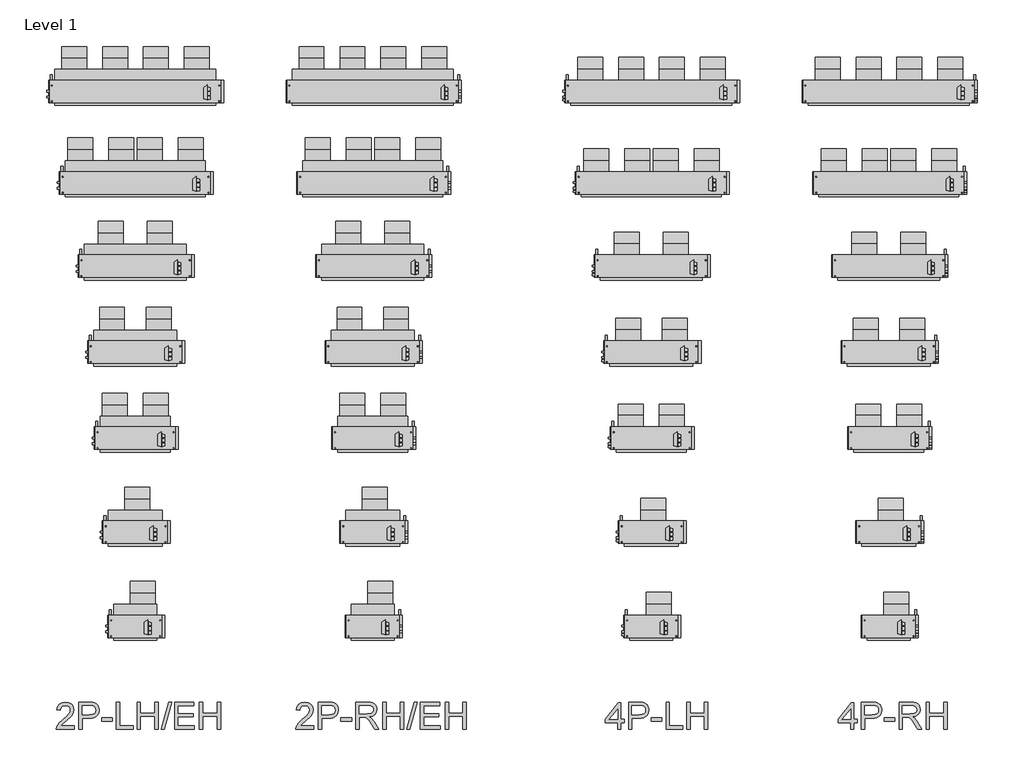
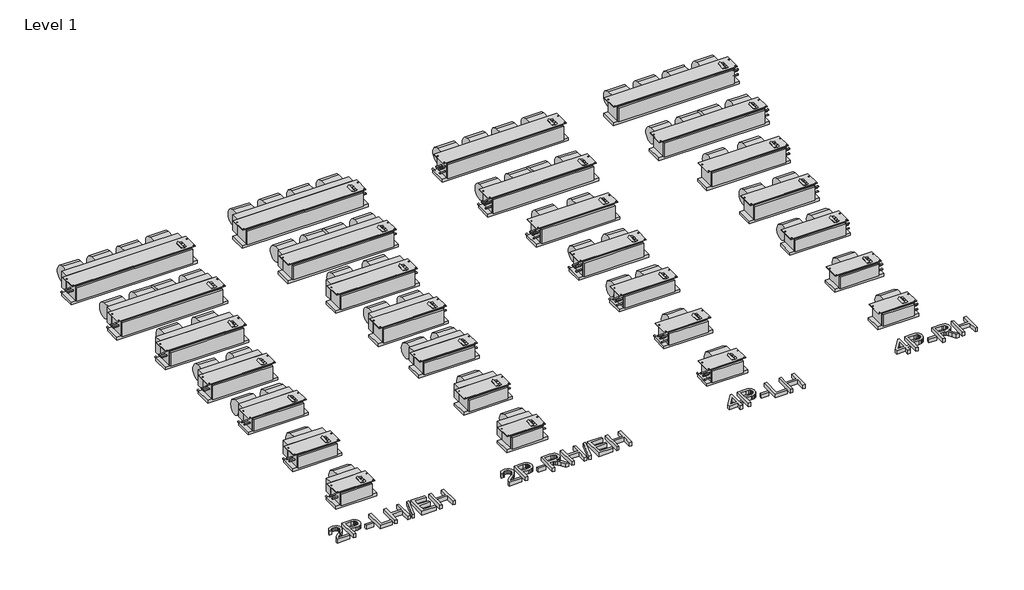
# One storey: 32 proxies.
"""IFC4 building model written with IfcOpenShell, lengths in millimetres."""

from ifc_helpers import new_model, si_unit, origin, origin_with_axes, place, context, project, spatial, polyline, outline, extrude, transform, mapped, element, save
from components import mechanical_equipment_23417bb2, mechanical_equipment_e5b27044, mechanical_equipment_69a07cf0, mechanical_equipment_f03ada10, mechanical_equipment_84a4468c, mechanical_equipment_52533416, mechanical_equipment_a1f2efd8, mechanical_equipment_bdde37b6, mechanical_equipment_29567586, mechanical_equipment_e6d8fa8a, mechanical_equipment_28c986cc, mechanical_equipment_38e29a78, mechanical_equipment_4577cfd4, mechanical_equipment_2d8c5a3b, mechanical_equipment_0b183461, mechanical_equipment_d764b94b, mechanical_equipment_ea1d5f5e, mechanical_equipment_06ff4b7f, mechanical_equipment_02c48ade, mechanical_equipment_e52bd92c, mechanical_equipment_d1901efa, mechanical_equipment_30e3efb8, mechanical_equipment_e5550dfa, mechanical_equipment_a1381dee, mechanical_equipment_a667337c, mechanical_equipment_61bc071b, mechanical_equipment_dacc72c7, mechanical_equipment_d07abc6c

model = new_model("IFC4")

# Units and contexts
model_context = context("Model", 3, world=origin())
ifc_project = project(units=[si_unit("LENGTHUNIT", "METRE", prefix="MILLI")], contexts=[model_context])

# Site, building, storey
site = spatial("IfcSite", under=ifc_project)
building = spatial("IfcBuilding", under=site)
storey = spatial("IfcBuildingStorey", under=building, Name="Level 1", Elevation=0.0)

# Proxies
placement = place(None, origin())
mechanical_equipment_shape = mechanical_equipment_23417bb2(model_context)
element("IfcBuildingElementProxy", 1, Name="Concealed_Horizontal_Fan_Coil_Unit_-_CHY_-_IEC_-_2-Pipe_Cool-EHeat_LH_2022 : Size 02 - 277v/60Hz/1Ph - 4 Row 2.0kW", ObjectType="Concealed_Horizontal_Fan_Coil_Unit_-_CHY_-_IEC_-_2-Pipe_Cool-EHeat_LH_2022 : Size 02 - 277v/60Hz/1Ph - 4 Row 2.0kW", at=placement, inside=storey, context=model_context, shape_type="MappedRepresentation", body=[
    mapped(mechanical_equipment_shape, transform((-13802.5071987, -1053.2557336, 0.0), x_axis=(1.0, 0.0, 0.0), y_axis=(0.0, 1.0, 0.0), z_axis=(0.0, 0.0, 1.0))),
])
mechanical_equipment_2_shape = mechanical_equipment_e5b27044(model_context)
element("IfcBuildingElementProxy", 2, Name="Concealed_Horizontal_Fan_Coil_Unit_-_CHY_-_IEC_-_2-Pipe_Cool-EHeat_LH_2022 : Size 03 - 277v/60Hz/1Ph - 4 Row 3.0kW", ObjectType="Concealed_Horizontal_Fan_Coil_Unit_-_CHY_-_IEC_-_2-Pipe_Cool-EHeat_LH_2022 : Size 03 - 277v/60Hz/1Ph - 4 Row 3.0kW", at=placement, inside=storey, context=model_context, shape_type="MappedRepresentation", body=[
    mapped(mechanical_equipment_2_shape, transform((-13802.5071987, -164.2557336, 0.0), x_axis=(1.0, 0.0, 0.0), y_axis=(0.0, 1.0, 0.0), z_axis=(0.0, 0.0, 1.0))),
])
mechanical_equipment_3_shape = mechanical_equipment_69a07cf0(model_context)
element("IfcBuildingElementProxy", 3, Name="Concealed_Horizontal_Fan_Coil_Unit_-_CHY_-_IEC_-_2-Pipe_Cool-EHeat_LH_2022 : Size 04 - 277v/60Hz/1Ph - 4 Row 3.0kW", ObjectType="Concealed_Horizontal_Fan_Coil_Unit_-_CHY_-_IEC_-_2-Pipe_Cool-EHeat_LH_2022 : Size 04 - 277v/60Hz/1Ph - 4 Row 3.0kW", at=placement, inside=storey, context=model_context, shape_type="MappedRepresentation", body=[
    mapped(mechanical_equipment_3_shape, transform((-13802.5071987, 724.7442664, 0.0), x_axis=(1.0, 0.0, 0.0), y_axis=(0.0, 1.0, 0.0), z_axis=(0.0, 0.0, 1.0))),
])
mechanical_equipment_4_shape = mechanical_equipment_f03ada10(model_context)
element("IfcBuildingElementProxy", 4, Name="Concealed_Horizontal_Fan_Coil_Unit_-_CHY_-_IEC_-_2-Pipe_Cool-EHeat_LH_2022 : Size 06 - 277v/60Hz/1Ph - 4 Row 6.0kW", ObjectType="Concealed_Horizontal_Fan_Coil_Unit_-_CHY_-_IEC_-_2-Pipe_Cool-EHeat_LH_2022 : Size 06 - 277v/60Hz/1Ph - 4 Row 6.0kW", at=placement, inside=storey, context=model_context, shape_type="MappedRepresentation", body=[
    mapped(mechanical_equipment_4_shape, transform((-13802.5071987, 1537.5442664, 0.0), x_axis=(1.0, 0.0, 0.0), y_axis=(0.0, 1.0, 0.0), z_axis=(0.0, 0.0, 1.0))),
])
mechanical_equipment_5_shape = mechanical_equipment_84a4468c(model_context)
element("IfcBuildingElementProxy", 5, Name="Concealed_Horizontal_Fan_Coil_Unit_-_CHY_-_IEC_-_2-Pipe_Cool-EHeat_LH_2022 : Size 08 - 277v/60Hz/1Ph - 4 Row 6.0kW", ObjectType="Concealed_Horizontal_Fan_Coil_Unit_-_CHY_-_IEC_-_2-Pipe_Cool-EHeat_LH_2022 : Size 08 - 277v/60Hz/1Ph - 4 Row 6.0kW", at=placement, inside=storey, context=model_context, shape_type="MappedRepresentation", body=[
    mapped(mechanical_equipment_5_shape, transform((-13802.5071987, 2350.3442664, 0.0), x_axis=(1.0, 0.0, 0.0), y_axis=(0.0, 1.0, 0.0), z_axis=(0.0, 0.0, 1.0))),
])
mechanical_equipment_6_shape = mechanical_equipment_52533416(model_context)
element("IfcBuildingElementProxy", 6, Name="Concealed_Horizontal_Fan_Coil_Unit_-_CHY_-_IEC_-_2-Pipe_Cool-EHeat_LH_2022 : Size 10 - 277v/60Hz/1Ph - 4 Row 8.0kW", ObjectType="Concealed_Horizontal_Fan_Coil_Unit_-_CHY_-_IEC_-_2-Pipe_Cool-EHeat_LH_2022 : Size 10 - 277v/60Hz/1Ph - 4 Row 8.0kW", at=placement, inside=storey, context=model_context, shape_type="MappedRepresentation", body=[
    mapped(mechanical_equipment_6_shape, transform((-13802.5071987, 3137.7442664, 0.0), x_axis=(1.0, 0.0, 0.0), y_axis=(0.0, 1.0, 0.0), z_axis=(0.0, 0.0, 1.0))),
])
mechanical_equipment_7_shape = mechanical_equipment_a1f2efd8(model_context)
element("IfcBuildingElementProxy", 7, Name="Concealed_Horizontal_Fan_Coil_Unit_-_CHY_-_IEC_-_2-Pipe_Cool-EHeat_LH_2022 : Size 12 - 277v/60Hz/1Ph - 4 Row 10.0kW", ObjectType="Concealed_Horizontal_Fan_Coil_Unit_-_CHY_-_IEC_-_2-Pipe_Cool-EHeat_LH_2022 : Size 12 - 277v/60Hz/1Ph - 4 Row 10.0kW", at=placement, inside=storey, context=model_context, shape_type="MappedRepresentation", body=[
    mapped(mechanical_equipment_7_shape, transform((-13802.5071987, 4001.3442664, 0.0), x_axis=(1.0, 0.0, 0.0), y_axis=(0.0, 1.0, 0.0), z_axis=(0.0, 0.0, 1.0))),
])
mechanical_equipment_8_shape = mechanical_equipment_bdde37b6(model_context)
element("IfcBuildingElementProxy", 8, Name="Concealed_Horizontal_Fan_Coil_Unit_-_CHY_-_IEC_-_4-Pipe_LH_2022 : Size 02 - 277v/60Hz/1Ph - 4/1 Coil", ObjectType="Concealed_Horizontal_Fan_Coil_Unit_-_CHY_-_IEC_-_4-Pipe_LH_2022 : Size 02 - 277v/60Hz/1Ph - 4/1 Coil", at=placement, inside=storey, context=model_context, shape_type="MappedRepresentation", body=[
    mapped(mechanical_equipment_8_shape, transform((-8925.7071987, -1053.2557336, 0.0), x_axis=(1.0, 0.0, 0.0), y_axis=(0.0, 1.0, 0.0), z_axis=(0.0, 0.0, 1.0))),
])
mechanical_equipment_9_shape = mechanical_equipment_29567586(model_context)
element("IfcBuildingElementProxy", 9, Name="Concealed_Horizontal_Fan_Coil_Unit_-_CHY_-_IEC_-_4-Pipe_LH_2022 : Size 03 - 277v/60Hz/1Ph - 4/1 Coil", ObjectType="Concealed_Horizontal_Fan_Coil_Unit_-_CHY_-_IEC_-_4-Pipe_LH_2022 : Size 03 - 277v/60Hz/1Ph - 4/1 Coil", at=placement, inside=storey, context=model_context, shape_type="MappedRepresentation", body=[
    mapped(mechanical_equipment_9_shape, transform((-8925.7071987, -164.2557336, 0.0), x_axis=(1.0, 0.0, 0.0), y_axis=(0.0, 1.0, 0.0), z_axis=(0.0, 0.0, 1.0))),
])
mechanical_equipment_10_shape = mechanical_equipment_e6d8fa8a(model_context)
element("IfcBuildingElementProxy", 10, Name="Concealed_Horizontal_Fan_Coil_Unit_-_CHY_-_IEC_-_4-Pipe_LH_2022 : Size 04 - 277v/60Hz/1Ph - 4/1 Coil", ObjectType="Concealed_Horizontal_Fan_Coil_Unit_-_CHY_-_IEC_-_4-Pipe_LH_2022 : Size 04 - 277v/60Hz/1Ph - 4/1 Coil", at=placement, inside=storey, context=model_context, shape_type="MappedRepresentation", body=[
    mapped(mechanical_equipment_10_shape, transform((-8925.7071987, 724.7442664, 0.0), x_axis=(1.0, 0.0, 0.0), y_axis=(0.0, 1.0, 0.0), z_axis=(0.0, 0.0, 1.0))),
])
mechanical_equipment_11_shape = mechanical_equipment_28c986cc(model_context)
element("IfcBuildingElementProxy", 11, Name="Concealed_Horizontal_Fan_Coil_Unit_-_CHY_-_IEC_-_4-Pipe_LH_2022 : Size 06 - 277v/60Hz/1Ph - 4/1 Coil", ObjectType="Concealed_Horizontal_Fan_Coil_Unit_-_CHY_-_IEC_-_4-Pipe_LH_2022 : Size 06 - 277v/60Hz/1Ph - 4/1 Coil", at=placement, inside=storey, context=model_context, shape_type="MappedRepresentation", body=[
    mapped(mechanical_equipment_11_shape, transform((-8925.7071987, 1537.5442664, 0.0), x_axis=(1.0, 0.0, 0.0), y_axis=(0.0, 1.0, 0.0), z_axis=(0.0, 0.0, 1.0))),
])
mechanical_equipment_12_shape = mechanical_equipment_38e29a78(model_context)
element("IfcBuildingElementProxy", 12, Name="Concealed_Horizontal_Fan_Coil_Unit_-_CHY_-_IEC_-_4-Pipe_LH_2022 : Size 08 - 277v/60Hz/1Ph - 4/1 Coil", ObjectType="Concealed_Horizontal_Fan_Coil_Unit_-_CHY_-_IEC_-_4-Pipe_LH_2022 : Size 08 - 277v/60Hz/1Ph - 4/1 Coil", at=placement, inside=storey, context=model_context, shape_type="MappedRepresentation", body=[
    mapped(mechanical_equipment_12_shape, transform((-8925.7071987, 2350.3442664, 0.0), x_axis=(1.0, 0.0, 0.0), y_axis=(0.0, 1.0, 0.0), z_axis=(0.0, 0.0, 1.0))),
])
mechanical_equipment_13_shape = mechanical_equipment_4577cfd4(model_context)
element("IfcBuildingElementProxy", 13, Name="Concealed_Horizontal_Fan_Coil_Unit_-_CHY_-_IEC_-_4-Pipe_LH_2022 : Size 10 - 277v/60Hz/1Ph - 4/1 Coil", ObjectType="Concealed_Horizontal_Fan_Coil_Unit_-_CHY_-_IEC_-_4-Pipe_LH_2022 : Size 10 - 277v/60Hz/1Ph - 4/1 Coil", at=placement, inside=storey, context=model_context, shape_type="MappedRepresentation", body=[
    mapped(mechanical_equipment_13_shape, transform((-8925.7071987, 3137.7442664, 0.0), x_axis=(1.0, 0.0, 0.0), y_axis=(0.0, 1.0, 0.0), z_axis=(0.0, 0.0, 1.0))),
])
mechanical_equipment_14_shape = mechanical_equipment_2d8c5a3b(model_context)
element("IfcBuildingElementProxy", 14, Name="Concealed_Horizontal_Fan_Coil_Unit_-_CHY_-_IEC_-_4-Pipe_LH_2022 : Size 12 - 277v/60Hz/1Ph - 4/1 Coil", ObjectType="Concealed_Horizontal_Fan_Coil_Unit_-_CHY_-_IEC_-_4-Pipe_LH_2022 : Size 12 - 277v/60Hz/1Ph - 4/1 Coil", at=placement, inside=storey, context=model_context, shape_type="MappedRepresentation", body=[
    mapped(mechanical_equipment_14_shape, transform((-8925.7071987, 4001.3442664, 0.0), x_axis=(1.0, 0.0, 0.0), y_axis=(0.0, 1.0, 0.0), z_axis=(0.0, 0.0, 1.0))),
])
mechanical_equipment_15_shape = mechanical_equipment_0b183461(model_context)
element("IfcBuildingElementProxy", 15, Name="Concealed_Horizontal_Fan_Coil_Unit_-_CHY_-_IEC_-_2-Pipe_Cool-EHeat_RH_2022 : Size 02 - 277v/60Hz/1Ph - 4 Row 2.0kW", ObjectType="Concealed_Horizontal_Fan_Coil_Unit_-_CHY_-_IEC_-_2-Pipe_Cool-EHeat_RH_2022 : Size 02 - 277v/60Hz/1Ph - 4 Row 2.0kW", at=placement, inside=storey, context=model_context, shape_type="MappedRepresentation", body=[
    mapped(mechanical_equipment_15_shape, transform((-11558.3213845, -1053.2557336, 0.0), x_axis=(1.0, 0.0, 0.0), y_axis=(0.0, 1.0, 0.0), z_axis=(0.0, 0.0, 1.0))),
])
mechanical_equipment_16_shape = mechanical_equipment_d764b94b(model_context)
element("IfcBuildingElementProxy", 16, Name="Concealed_Horizontal_Fan_Coil_Unit_-_CHY_-_IEC_-_2-Pipe_Cool-EHeat_RH_2022 : Size 03 - 277v/60Hz/1Ph - 4 Row 3.0kW", ObjectType="Concealed_Horizontal_Fan_Coil_Unit_-_CHY_-_IEC_-_2-Pipe_Cool-EHeat_RH_2022 : Size 03 - 277v/60Hz/1Ph - 4 Row 3.0kW", at=placement, inside=storey, context=model_context, shape_type="MappedRepresentation", body=[
    mapped(mechanical_equipment_16_shape, transform((-11558.3213845, -164.2557336, 0.0), x_axis=(1.0, 0.0, 0.0), y_axis=(0.0, 1.0, 0.0), z_axis=(0.0, 0.0, 1.0))),
])
mechanical_equipment_17_shape = mechanical_equipment_ea1d5f5e(model_context)
element("IfcBuildingElementProxy", 17, Name="Concealed_Horizontal_Fan_Coil_Unit_-_CHY_-_IEC_-_2-Pipe_Cool-EHeat_RH_2022 : Size 04 - 277v/60Hz/1Ph - 4 Row 3.0kW", ObjectType="Concealed_Horizontal_Fan_Coil_Unit_-_CHY_-_IEC_-_2-Pipe_Cool-EHeat_RH_2022 : Size 04 - 277v/60Hz/1Ph - 4 Row 3.0kW", at=placement, inside=storey, context=model_context, shape_type="MappedRepresentation", body=[
    mapped(mechanical_equipment_17_shape, transform((-11558.3213845, 724.7442664, 0.0), x_axis=(1.0, 0.0, 0.0), y_axis=(0.0, 1.0, 0.0), z_axis=(0.0, 0.0, 1.0))),
])
mechanical_equipment_18_shape = mechanical_equipment_06ff4b7f(model_context)
element("IfcBuildingElementProxy", 18, Name="Concealed_Horizontal_Fan_Coil_Unit_-_CHY_-_IEC_-_2-Pipe_Cool-EHeat_RH_2022 : Size 06 - 277v/60Hz/1Ph - 4 Row 6.0kW", ObjectType="Concealed_Horizontal_Fan_Coil_Unit_-_CHY_-_IEC_-_2-Pipe_Cool-EHeat_RH_2022 : Size 06 - 277v/60Hz/1Ph - 4 Row 6.0kW", at=placement, inside=storey, context=model_context, shape_type="MappedRepresentation", body=[
    mapped(mechanical_equipment_18_shape, transform((-11558.3213845, 1537.5442664, 0.0), x_axis=(1.0, 0.0, 0.0), y_axis=(0.0, 1.0, 0.0), z_axis=(0.0, 0.0, 1.0))),
])
mechanical_equipment_19_shape = mechanical_equipment_02c48ade(model_context)
element("IfcBuildingElementProxy", 19, Name="Concealed_Horizontal_Fan_Coil_Unit_-_CHY_-_IEC_-_2-Pipe_Cool-EHeat_RH_2022 : Size 08 - 277v/60Hz/1Ph - 4 Row 6.0kW", ObjectType="Concealed_Horizontal_Fan_Coil_Unit_-_CHY_-_IEC_-_2-Pipe_Cool-EHeat_RH_2022 : Size 08 - 277v/60Hz/1Ph - 4 Row 6.0kW", at=placement, inside=storey, context=model_context, shape_type="MappedRepresentation", body=[
    mapped(mechanical_equipment_19_shape, transform((-11558.3213845, 2350.3442664, 0.0), x_axis=(1.0, 0.0, 0.0), y_axis=(0.0, 1.0, 0.0), z_axis=(0.0, 0.0, 1.0))),
])
mechanical_equipment_20_shape = mechanical_equipment_e52bd92c(model_context)
element("IfcBuildingElementProxy", 20, Name="Concealed_Horizontal_Fan_Coil_Unit_-_CHY_-_IEC_-_2-Pipe_Cool-EHeat_RH_2022 : Size 10 - 277v/60Hz/1Ph - 4 Row 8.0kW", ObjectType="Concealed_Horizontal_Fan_Coil_Unit_-_CHY_-_IEC_-_2-Pipe_Cool-EHeat_RH_2022 : Size 10 - 277v/60Hz/1Ph - 4 Row 8.0kW", at=placement, inside=storey, context=model_context, shape_type="MappedRepresentation", body=[
    mapped(mechanical_equipment_20_shape, transform((-11558.3213845, 3137.7442664, 0.0), x_axis=(1.0, 0.0, 0.0), y_axis=(0.0, 1.0, 0.0), z_axis=(0.0, 0.0, 1.0))),
])
mechanical_equipment_21_shape = mechanical_equipment_d1901efa(model_context)
element("IfcBuildingElementProxy", 21, Name="Concealed_Horizontal_Fan_Coil_Unit_-_CHY_-_IEC_-_2-Pipe_Cool-EHeat_RH_2022 : Size 12 - 277v/60Hz/1Ph - 4 Row 10.0kW", ObjectType="Concealed_Horizontal_Fan_Coil_Unit_-_CHY_-_IEC_-_2-Pipe_Cool-EHeat_RH_2022 : Size 12 - 277v/60Hz/1Ph - 4 Row 10.0kW", at=placement, inside=storey, context=model_context, shape_type="MappedRepresentation", body=[
    mapped(mechanical_equipment_21_shape, transform((-11558.3213845, 4001.3442664, 0.0), x_axis=(1.0, 0.0, 0.0), y_axis=(0.0, 1.0, 0.0), z_axis=(0.0, 0.0, 1.0))),
])
mechanical_equipment_22_shape = mechanical_equipment_30e3efb8(model_context)
element("IfcBuildingElementProxy", 22, Name="Concealed_Horizontal_Fan_Coil_Unit_-_CHY_-_IEC_-_4-Pipe_RH_2022 : Size 02 - 277v/60Hz/1Ph - 4/1 Coil", ObjectType="Concealed_Horizontal_Fan_Coil_Unit_-_CHY_-_IEC_-_4-Pipe_RH_2022 : Size 02 - 277v/60Hz/1Ph - 4/1 Coil", at=placement, inside=storey, context=model_context, shape_type="MappedRepresentation", body=[
    mapped(mechanical_equipment_22_shape, transform((-6681.5213845, -1053.2557336, 0.0), x_axis=(1.0, 0.0, 0.0), y_axis=(0.0, 1.0, 0.0), z_axis=(0.0, 0.0, 1.0))),
])
mechanical_equipment_23_shape = mechanical_equipment_e5550dfa(model_context)
element("IfcBuildingElementProxy", 23, Name="Concealed_Horizontal_Fan_Coil_Unit_-_CHY_-_IEC_-_4-Pipe_RH_2022 : Size 03 - 277v/60Hz/1Ph - 4/1 Coil", ObjectType="Concealed_Horizontal_Fan_Coil_Unit_-_CHY_-_IEC_-_4-Pipe_RH_2022 : Size 03 - 277v/60Hz/1Ph - 4/1 Coil", at=placement, inside=storey, context=model_context, shape_type="MappedRepresentation", body=[
    mapped(mechanical_equipment_23_shape, transform((-6681.5213845, -164.2557336, 0.0), x_axis=(1.0, 0.0, 0.0), y_axis=(0.0, 1.0, 0.0), z_axis=(0.0, 0.0, 1.0))),
])
mechanical_equipment_24_shape = mechanical_equipment_a1381dee(model_context)
element("IfcBuildingElementProxy", 24, Name="Concealed_Horizontal_Fan_Coil_Unit_-_CHY_-_IEC_-_4-Pipe_RH_2022 : Size 04 - 277v/60Hz/1Ph - 4/1 Coil", ObjectType="Concealed_Horizontal_Fan_Coil_Unit_-_CHY_-_IEC_-_4-Pipe_RH_2022 : Size 04 - 277v/60Hz/1Ph - 4/1 Coil", at=placement, inside=storey, context=model_context, shape_type="MappedRepresentation", body=[
    mapped(mechanical_equipment_24_shape, transform((-6681.5213845, 724.7442664, 0.0), x_axis=(1.0, 0.0, 0.0), y_axis=(0.0, 1.0, 0.0), z_axis=(0.0, 0.0, 1.0))),
])
mechanical_equipment_25_shape = mechanical_equipment_a667337c(model_context)
element("IfcBuildingElementProxy", 25, Name="Concealed_Horizontal_Fan_Coil_Unit_-_CHY_-_IEC_-_4-Pipe_RH_2022 : Size 06 - 277v/60Hz/1Ph - 4/1 Coil", ObjectType="Concealed_Horizontal_Fan_Coil_Unit_-_CHY_-_IEC_-_4-Pipe_RH_2022 : Size 06 - 277v/60Hz/1Ph - 4/1 Coil", at=placement, inside=storey, context=model_context, shape_type="MappedRepresentation", body=[
    mapped(mechanical_equipment_25_shape, transform((-6681.5213845, 1537.5442664, 0.0), x_axis=(1.0, 0.0, 0.0), y_axis=(0.0, 1.0, 0.0), z_axis=(0.0, 0.0, 1.0))),
])
mechanical_equipment_26_shape = mechanical_equipment_61bc071b(model_context)
element("IfcBuildingElementProxy", 26, Name="Concealed_Horizontal_Fan_Coil_Unit_-_CHY_-_IEC_-_4-Pipe_RH_2022 : Size 08 - 277v/60Hz/1Ph - 4/1 Coil", ObjectType="Concealed_Horizontal_Fan_Coil_Unit_-_CHY_-_IEC_-_4-Pipe_RH_2022 : Size 08 - 277v/60Hz/1Ph - 4/1 Coil", at=placement, inside=storey, context=model_context, shape_type="MappedRepresentation", body=[
    mapped(mechanical_equipment_26_shape, transform((-6681.5213845, 2350.3442664, 0.0), x_axis=(1.0, 0.0, 0.0), y_axis=(0.0, 1.0, 0.0), z_axis=(0.0, 0.0, 1.0))),
])
mechanical_equipment_27_shape = mechanical_equipment_dacc72c7(model_context)
element("IfcBuildingElementProxy", 27, Name="Concealed_Horizontal_Fan_Coil_Unit_-_CHY_-_IEC_-_4-Pipe_RH_2022 : Size 10 - 277v/60Hz/1Ph - 4/1 Coil", ObjectType="Concealed_Horizontal_Fan_Coil_Unit_-_CHY_-_IEC_-_4-Pipe_RH_2022 : Size 10 - 277v/60Hz/1Ph - 4/1 Coil", at=placement, inside=storey, context=model_context, shape_type="MappedRepresentation", body=[
    mapped(mechanical_equipment_27_shape, transform((-6681.5213845, 3137.7442664, 0.0), x_axis=(1.0, 0.0, 0.0), y_axis=(0.0, 1.0, 0.0), z_axis=(0.0, 0.0, 1.0))),
])
mechanical_equipment_28_shape = mechanical_equipment_d07abc6c(model_context)
element("IfcBuildingElementProxy", 28, Name="Concealed_Horizontal_Fan_Coil_Unit_-_CHY_-_IEC_-_4-Pipe_RH_2022 : Size 12 - 277v/60Hz/1Ph - 4/1 Coil", ObjectType="Concealed_Horizontal_Fan_Coil_Unit_-_CHY_-_IEC_-_4-Pipe_RH_2022 : Size 12 - 277v/60Hz/1Ph - 4/1 Coil", at=placement, inside=storey, context=model_context, shape_type="MappedRepresentation", body=[
    mapped(mechanical_equipment_28_shape, transform((-6681.5213845, 4001.3442664, 0.0), x_axis=(1.0, 0.0, 0.0), y_axis=(0.0, 1.0, 0.0), z_axis=(0.0, 0.0, 1.0))),
])
element("IfcBuildingElementProxy", 29, Name="24\" Arial", ObjectType="24\" Arial", at=placement, inside=storey, context=model_context, shape_type="SweptSolid", body=[
    extrude(outline(polyline([(-14227.1148112, -2231.8462306), (-14227.1148112, -2263.741109), (-14394.5629232, -2263.741109), (-14391.1367155, -2241.7510854), (-14383.2720116, -2224.5655393), (-14371.7630686, -2207.8939244), (-14331.8321758, -2170.9220291), (-14297.4143627, -2140.3509127), (-14276.7636747, -2117.7846632), (-14266.4383308, -2099.470026), (-14262.9965495, -2081.6537462), (-14266.2436599, -2065.6829465), (-14275.9849912, -2052.4063918), (-14290.959076, -2043.4593178), (-14309.9044469, -2040.4769597), (-14329.7998118, -2043.3892362), (-14345.2566804, -2052.1260657), (-14355.2316167, -2066.0022067), (-14358.6811849, -2084.3324176), (-14390.5760633, -2080.3455578), (-14382.8437356, -2049.4941153), (-14366.1253997, -2026.9590132), (-14341.2931811, -2013.1763142), (-14309.2192054, -2008.5820813), (-14276.9116246, -2013.6902454), (-14252.126127, -2029.0147378), (-14236.357785, -2051.9080343), (-14231.101671, -2079.722611), (-14236.7704873, -2109.9666803), (-14255.6146293, -2141.2386119), (-14301.3077804, -2184.9383331), (-14337.9993496, -2215.6184653), (-14352.3894217, -2231.8462306), (-14227.1148112, -2231.8462306)])), origin_with_axes(), (0.0, 0.0, 1.0), 50.8),
    extrude(outline(polyline([(-14183.2593533, -2263.741109), (-14183.2593533, -2008.5820813), (-14088.6960222, -2008.5820813), (-14050.5716753, -2011.011574), (-14033.5730132, -2015.5512991), (-14019.5800697, -2022.941006), (-14008.3125186, -2033.5155287), (-13999.490034, -2047.6097011), (-13993.7900703, -2064.234595), (-13991.8900824, -2082.4012824), (-13997.0216071, -2112.4740414), (-14012.416181, -2137.5320782), (-14024.7446884, -2147.3979989), (-14041.2041121, -2154.4450851), (-14061.794452, -2158.6733368), (-14086.5157082, -2160.082754), (-14151.3644748, -2160.082754), (-14151.3644748, -2263.741109), (-14183.2593533, -2263.741109)]), holes=[polyline([(-14151.3644748, -2128.1878755), (-14084.6468677, -2128.1878755), (-14056.3650809, -2125.2600254), (-14037.6766756, -2116.4764748), (-14027.2578896, -2102.3823025), (-14023.7849609, -2083.5225867), (-14025.8328987, -2069.1948093), (-14031.9767119, -2057.1096405), (-14041.4532908, -2048.0146166), (-14053.4995254, -2042.6572737), (-14085.3944039, -2040.4769597), (-14151.3644748, -2040.4769597), (-14151.3644748, -2128.1878755)])]), origin_with_axes(), (0.0, 0.0, 1.0), 50.8),
    extrude(outline(polyline([(-13967.9689236, -2187.9907727), (-13967.9689236, -2156.0958942), (-13868.2974284, -2156.0958942), (-13868.2974284, -2187.9907727), (-13967.9689236, -2187.9907727)])), origin_with_axes(), (0.0, 0.0, 1.0), 50.8),
    extrude(outline(polyline([(-13828.4288303, -2263.741109), (-13828.4288303, -2008.5820813), (-13796.5339518, -2008.5820813), (-13796.5339518, -2231.8462306), (-13668.9544379, -2231.8462306), (-13668.9544379, -2263.741109), (-13828.4288303, -2263.741109)])), origin_with_axes(), (0.0, 0.0, 1.0), 50.8),
    extrude(outline(polyline([(-13633.0726996, -2263.741109), (-13633.0726996, -2008.5820813), (-13601.1778212, -2008.5820813), (-13601.1778212, -2112.2404363), (-13465.6245876, -2112.2404363), (-13465.6245876, -2008.5820813), (-13433.7297092, -2008.5820813), (-13433.7297092, -2263.741109), (-13465.6245876, -2263.741109), (-13465.6245876, -2144.1353148), (-13601.1778212, -2144.1353148), (-13601.1778212, -2263.741109), (-13633.0726996, -2263.741109)])), origin_with_axes(), (0.0, 0.0, 1.0), 50.8),
    extrude(outline(polyline([(-13405.8216905, -2263.741109), (-13334.0582139, -2008.5820813), (-13305.2780697, -2008.5820813), (-13377.0415463, -2263.741109), (-13405.8216905, -2263.741109)])), origin_with_axes(), (0.0, 0.0, 1.0), 50.8),
    extrude(outline(polyline([(-13278.2421766, -2263.741109), (-13278.2421766, -2008.5820813), (-13094.8466254, -2008.5820813), (-13094.8466254, -2040.4769597), (-13246.3472981, -2040.4769597), (-13246.3472981, -2116.2272961), (-13102.820345, -2116.2272961), (-13102.820345, -2148.1221746), (-13246.3472981, -2148.1221746), (-13246.3472981, -2231.8462306), (-13090.8597656, -2231.8462306), (-13090.8597656, -2263.741109), (-13278.2421766, -2263.741109)])), origin_with_axes(), (0.0, 0.0, 1.0), 50.8),
    extrude(outline(polyline([(-13043.0174479, -2263.741109), (-13043.0174479, -2008.5820813), (-13011.1225694, -2008.5820813), (-13011.1225694, -2112.2404363), (-12875.5693359, -2112.2404363), (-12875.5693359, -2008.5820813), (-12843.6744574, -2008.5820813), (-12843.6744574, -2263.741109), (-12875.5693359, -2263.741109), (-12875.5693359, -2144.1353148), (-13011.1225694, -2144.1353148), (-13011.1225694, -2263.741109), (-13043.0174479, -2263.741109)])), origin_with_axes(), (0.0, 0.0, 1.0), 50.8),
])
element("IfcBuildingElementProxy", 30, Name="24\" Arial", ObjectType="24\" Arial", at=placement, inside=storey, context=model_context, shape_type="SweptSolid", body=[
    extrude(outline(polyline([(-11964.9100314, -2231.8462306), (-11964.9100314, -2263.741109), (-12132.3581434, -2263.741109), (-12128.9319358, -2241.7510854), (-12121.0672318, -2224.5655393), (-12109.5582889, -2207.8939244), (-12069.6273961, -2170.9220291), (-12035.2095829, -2140.3509127), (-12014.558895, -2117.7846632), (-12004.233551, -2099.470026), (-12000.7917697, -2081.6537462), (-12004.0388801, -2065.6829465), (-12013.7802114, -2052.4063918), (-12028.7542962, -2043.4593178), (-12047.6996672, -2040.4769597), (-12067.595032, -2043.3892362), (-12083.0519006, -2052.1260657), (-12093.026837, -2066.0022067), (-12096.4764051, -2084.3324176), (-12128.3712836, -2080.3455578), (-12120.6389559, -2049.4941153), (-12103.9206199, -2026.9590132), (-12079.0884013, -2013.1763142), (-12047.0144256, -2008.5820813), (-12014.7068449, -2013.6902454), (-11989.9213473, -2029.0147378), (-11974.1530053, -2051.9080343), (-11968.8968912, -2079.722611), (-11974.5657075, -2109.9666803), (-11993.4098496, -2141.2386119), (-12039.1030007, -2184.9383331), (-12075.7945699, -2215.6184653), (-12090.184642, -2231.8462306), (-11964.9100314, -2231.8462306)])), origin_with_axes(), (0.0, 0.0, 1.0), 50.8),
    extrude(outline(polyline([(-11921.0545735, -2263.741109), (-11921.0545735, -2008.5820813), (-11826.4912424, -2008.5820813), (-11788.3668955, -2011.011574), (-11771.3682335, -2015.5512991), (-11757.37529, -2022.941006), (-11746.1077389, -2033.5155287), (-11737.2852542, -2047.6097011), (-11731.5852906, -2064.234595), (-11729.6853027, -2082.4012824), (-11734.8168273, -2112.4740414), (-11750.2114012, -2137.5320782), (-11762.5399087, -2147.3979989), (-11778.9993323, -2154.4450851), (-11799.5896723, -2158.6733368), (-11824.3109285, -2160.082754), (-11889.1596951, -2160.082754), (-11889.1596951, -2263.741109), (-11921.0545735, -2263.741109)]), holes=[polyline([(-11889.1596951, -2128.1878755), (-11822.4420879, -2128.1878755), (-11794.1603012, -2125.2600254), (-11775.4718958, -2116.4764748), (-11765.0531098, -2102.3823025), (-11761.5801812, -2083.5225867), (-11763.6281189, -2069.1948093), (-11769.7719322, -2057.1096405), (-11779.2485111, -2048.0146166), (-11791.2947457, -2042.6572737), (-11823.1896242, -2040.4769597), (-11889.1596951, -2040.4769597), (-11889.1596951, -2128.1878755)])]), origin_with_axes(), (0.0, 0.0, 1.0), 50.8),
    extrude(outline(polyline([(-11705.7641438, -2187.9907727), (-11705.7641438, -2156.0958942), (-11606.0926486, -2156.0958942), (-11606.0926486, -2187.9907727), (-11705.7641438, -2187.9907727)])), origin_with_axes(), (0.0, 0.0, 1.0), 50.8),
    extrude(outline(polyline([(-11566.2240505, -2263.741109), (-11566.2240505, -2008.5820813), (-11456.2739324, -2008.5820813), (-11426.7228914, -2010.3029719), (-11405.2234384, -2015.4656439), (-11389.5096042, -2024.9967306), (-11377.3154197, -2039.8228655), (-11369.48965, -2058.2075843), (-11366.8810601, -2078.4144226), (-11371.2027538, -2103.5503278), (-11384.167835, -2124.3878998), (-11406.1656455, -2139.6656712), (-11437.585527, -2148.1221746), (-11419.4577738, -2161.7647105), (-11393.6054797, -2194.5940092), (-11351.0582102, -2263.741109), (-11388.1235475, -2263.741109), (-11421.3266143, -2210.8529219), (-11445.3100679, -2175.8433092), (-11462.16078, -2159.3040704), (-11477.3295357, -2153.2303387), (-11495.831057, -2152.1090344), (-11534.3291721, -2152.1090344), (-11534.3291721, -2263.741109), (-11566.2240505, -2263.741109)]), holes=[polyline([(-11534.3291721, -2120.2141559), (-11462.9394636, -2120.2141559), (-11426.5282205, -2115.6977913), (-11414.5520674, -2109.8265173), (-11405.8463852, -2101.2454245), (-11400.5435502, -2090.8655727), (-11398.7759385, -2079.5980216), (-11402.1476383, -2064.0399242), (-11412.2627377, -2051.5031189), (-11429.6663152, -2043.2334995), (-11454.9034493, -2040.4769597), (-11534.3291721, -2040.4769597), (-11534.3291721, -2120.2141559)])]), origin_with_axes(), (0.0, 0.0, 1.0), 50.8),
    extrude(outline(polyline([(-11311.0650227, -2263.741109), (-11311.0650227, -2008.5820813), (-11279.1701443, -2008.5820813), (-11279.1701443, -2112.2404363), (-11143.6169108, -2112.2404363), (-11143.6169108, -2008.5820813), (-11111.7220323, -2008.5820813), (-11111.7220323, -2263.741109), (-11143.6169108, -2263.741109), (-11143.6169108, -2144.1353148), (-11279.1701443, -2144.1353148), (-11279.1701443, -2263.741109), (-11311.0650227, -2263.741109)])), origin_with_axes(), (0.0, 0.0, 1.0), 50.8),
    extrude(outline(polyline([(-11083.8140136, -2263.741109), (-11012.0505371, -2008.5820813), (-10983.2703928, -2008.5820813), (-11055.0338694, -2263.741109), (-11083.8140136, -2263.741109)])), origin_with_axes(), (0.0, 0.0, 1.0), 50.8),
    extrude(outline(polyline([(-10956.2344997, -2263.741109), (-10956.2344997, -2008.5820813), (-10772.8389485, -2008.5820813), (-10772.8389485, -2040.4769597), (-10924.3396213, -2040.4769597), (-10924.3396213, -2116.2272961), (-10780.8126681, -2116.2272961), (-10780.8126681, -2148.1221746), (-10924.3396213, -2148.1221746), (-10924.3396213, -2231.8462306), (-10768.8520887, -2231.8462306), (-10768.8520887, -2263.741109), (-10956.2344997, -2263.741109)])), origin_with_axes(), (0.0, 0.0, 1.0), 50.8),
    extrude(outline(polyline([(-10721.009771, -2263.741109), (-10721.009771, -2008.5820813), (-10689.1148925, -2008.5820813), (-10689.1148925, -2112.2404363), (-10553.561659, -2112.2404363), (-10553.561659, -2008.5820813), (-10521.6667806, -2008.5820813), (-10521.6667806, -2263.741109), (-10553.561659, -2263.741109), (-10553.561659, -2144.1353148), (-10689.1148925, -2144.1353148), (-10689.1148925, -2263.741109), (-10721.009771, -2263.741109)])), origin_with_axes(), (0.0, 0.0, 1.0), 50.8),
])
element("IfcBuildingElementProxy", 31, Name="24\" Arial", ObjectType="24\" Arial", at=placement, inside=storey, context=model_context, shape_type="SweptSolid", body=[
    extrude(outline(polyline([(-9092.1870689, -2263.741109), (-9092.1870689, -2203.9382119), (-9207.8060034, -2203.9382119), (-9207.8060034, -2172.0433334), (-9084.2133493, -2012.5689411), (-9060.2921905, -2012.5689411), (-9060.2921905, -2172.0433334), (-9028.397312, -2172.0433334), (-9028.397312, -2203.9382119), (-9060.2921905, -2203.9382119), (-9060.2921905, -2263.741109), (-9092.1870689, -2263.741109)]), holes=[polyline([(-9092.1870689, -2172.0433334), (-9092.1870689, -2073.4931425), (-9168.5603521, -2172.0433334), (-9092.1870689, -2172.0433334)])]), origin_with_axes(), (0.0, 0.0, 1.0), 50.8),
    extrude(outline(polyline([(-8988.5287139, -2263.741109), (-8988.5287139, -2008.5820813), (-8893.9653828, -2008.5820813), (-8855.8410359, -2011.011574), (-8838.8423738, -2015.5512991), (-8824.8494303, -2022.941006), (-8813.5818793, -2033.5155287), (-8804.7593946, -2047.6097011), (-8799.0594309, -2064.234595), (-8797.1594431, -2082.4012824), (-8802.2909677, -2112.4740414), (-8817.6855416, -2137.5320782), (-8830.014049, -2147.3979989), (-8846.4734727, -2154.4450851), (-8867.0638126, -2158.6733368), (-8891.7850688, -2160.082754), (-8956.6338354, -2160.082754), (-8956.6338354, -2263.741109), (-8988.5287139, -2263.741109)]), holes=[polyline([(-8956.6338354, -2128.1878755), (-8889.9162283, -2128.1878755), (-8861.6344415, -2125.2600254), (-8842.9460362, -2116.4764748), (-8832.5272502, -2102.3823025), (-8829.0543215, -2083.5225867), (-8831.1022593, -2069.1948093), (-8837.2460725, -2057.1096405), (-8846.7226514, -2048.0146166), (-8858.768886, -2042.6572737), (-8890.6637645, -2040.4769597), (-8956.6338354, -2040.4769597), (-8956.6338354, -2128.1878755)])]), origin_with_axes(), (0.0, 0.0, 1.0), 50.8),
    extrude(outline(polyline([(-8773.2382842, -2187.9907727), (-8773.2382842, -2156.0958942), (-8673.566789, -2156.0958942), (-8673.566789, -2187.9907727), (-8773.2382842, -2187.9907727)])), origin_with_axes(), (0.0, 0.0, 1.0), 50.8),
    extrude(outline(polyline([(-8633.6981909, -2263.741109), (-8633.6981909, -2008.5820813), (-8601.8033124, -2008.5820813), (-8601.8033124, -2231.8462306), (-8474.2237985, -2231.8462306), (-8474.2237985, -2263.741109), (-8633.6981909, -2263.741109)])), origin_with_axes(), (0.0, 0.0, 1.0), 50.8),
    extrude(outline(polyline([(-8438.3420602, -2263.741109), (-8438.3420602, -2008.5820813), (-8406.4471818, -2008.5820813), (-8406.4471818, -2112.2404363), (-8270.8939483, -2112.2404363), (-8270.8939483, -2008.5820813), (-8238.9990698, -2008.5820813), (-8238.9990698, -2263.741109), (-8270.8939483, -2263.741109), (-8270.8939483, -2144.1353148), (-8406.4471818, -2144.1353148), (-8406.4471818, -2263.741109), (-8438.3420602, -2263.741109)])), origin_with_axes(), (0.0, 0.0, 1.0), 50.8),
])
element("IfcBuildingElementProxy", 32, Name="24\" Arial", ObjectType="24\" Arial", at=placement, inside=storey, context=model_context, shape_type="SweptSolid", body=[
    extrude(outline(polyline([(-6890.3965244, -2263.741109), (-6890.3965244, -2203.9382119), (-7006.0154588, -2203.9382119), (-7006.0154588, -2172.0433334), (-6882.4228047, -2012.5689411), (-6858.5016459, -2012.5689411), (-6858.5016459, -2172.0433334), (-6826.6067674, -2172.0433334), (-6826.6067674, -2203.9382119), (-6858.5016459, -2203.9382119), (-6858.5016459, -2263.741109), (-6890.3965244, -2263.741109)]), holes=[polyline([(-6890.3965244, -2172.0433334), (-6890.3965244, -2073.4931425), (-6966.7698076, -2172.0433334), (-6890.3965244, -2172.0433334)])]), origin_with_axes(), (0.0, 0.0, 1.0), 50.8),
    extrude(outline(polyline([(-6786.7381693, -2263.741109), (-6786.7381693, -2008.5820813), (-6692.1748382, -2008.5820813), (-6654.0504913, -2011.011574), (-6637.0518293, -2015.5512991), (-6623.0588858, -2022.941006), (-6611.7913347, -2033.5155287), (-6602.96885, -2047.6097011), (-6597.2688864, -2064.234595), (-6595.3688985, -2082.4012824), (-6600.5004231, -2112.4740414), (-6615.894997, -2137.5320782), (-6628.2235044, -2147.3979989), (-6644.6829281, -2154.4450851), (-6665.2732681, -2158.6733368), (-6689.9945243, -2160.082754), (-6754.8432909, -2160.082754), (-6754.8432909, -2263.741109), (-6786.7381693, -2263.741109)]), holes=[polyline([(-6754.8432909, -2128.1878755), (-6688.1256837, -2128.1878755), (-6659.843897, -2125.2600254), (-6641.1554916, -2116.4764748), (-6630.7367056, -2102.3823025), (-6627.263777, -2083.5225867), (-6629.3117147, -2069.1948093), (-6635.455528, -2057.1096405), (-6644.9321069, -2048.0146166), (-6656.9783415, -2042.6572737), (-6688.8732199, -2040.4769597), (-6754.8432909, -2040.4769597), (-6754.8432909, -2128.1878755)])]), origin_with_axes(), (0.0, 0.0, 1.0), 50.8),
    extrude(outline(polyline([(-6571.4477396, -2187.9907727), (-6571.4477396, -2156.0958942), (-6471.7762444, -2156.0958942), (-6471.7762444, -2187.9907727), (-6571.4477396, -2187.9907727)])), origin_with_axes(), (0.0, 0.0, 1.0), 50.8),
    extrude(outline(polyline([(-6431.9076463, -2263.741109), (-6431.9076463, -2008.5820813), (-6321.9575281, -2008.5820813), (-6292.4064872, -2010.3029719), (-6270.9070342, -2015.4656439), (-6255.1932, -2024.9967306), (-6242.9990155, -2039.8228655), (-6235.1732458, -2058.2075843), (-6232.5646559, -2078.4144226), (-6236.8863496, -2103.5503278), (-6249.8514308, -2124.3878998), (-6271.8492413, -2139.6656712), (-6303.2691228, -2148.1221746), (-6285.1413696, -2161.7647105), (-6259.2890755, -2194.5940092), (-6216.741806, -2263.741109), (-6253.8071433, -2263.741109), (-6287.0102101, -2210.8529219), (-6310.9936637, -2175.8433092), (-6327.8443758, -2159.3040704), (-6343.0131315, -2153.2303387), (-6361.5146528, -2152.1090344), (-6400.0127678, -2152.1090344), (-6400.0127678, -2263.741109), (-6431.9076463, -2263.741109)]), holes=[polyline([(-6400.0127678, -2120.2141559), (-6328.6230594, -2120.2141559), (-6292.2118163, -2115.6977913), (-6280.2356632, -2109.8265173), (-6271.529981, -2101.2454245), (-6266.227146, -2090.8655727), (-6264.4595343, -2079.5980216), (-6267.8312341, -2064.0399242), (-6277.9463335, -2051.5031189), (-6295.349911, -2043.2334995), (-6320.5870451, -2040.4769597), (-6400.0127678, -2040.4769597), (-6400.0127678, -2120.2141559)])]), origin_with_axes(), (0.0, 0.0, 1.0), 50.8),
    extrude(outline(polyline([(-6176.7486185, -2263.741109), (-6176.7486185, -2008.5820813), (-6144.8537401, -2008.5820813), (-6144.8537401, -2112.2404363), (-6009.3005066, -2112.2404363), (-6009.3005066, -2008.5820813), (-5977.4056281, -2008.5820813), (-5977.4056281, -2263.741109), (-6009.3005066, -2263.741109), (-6009.3005066, -2144.1353148), (-6144.8537401, -2144.1353148), (-6144.8537401, -2263.741109), (-6176.7486185, -2263.741109)])), origin_with_axes(), (0.0, 0.0, 1.0), 50.8),
])

save(model, "model.ifc")
